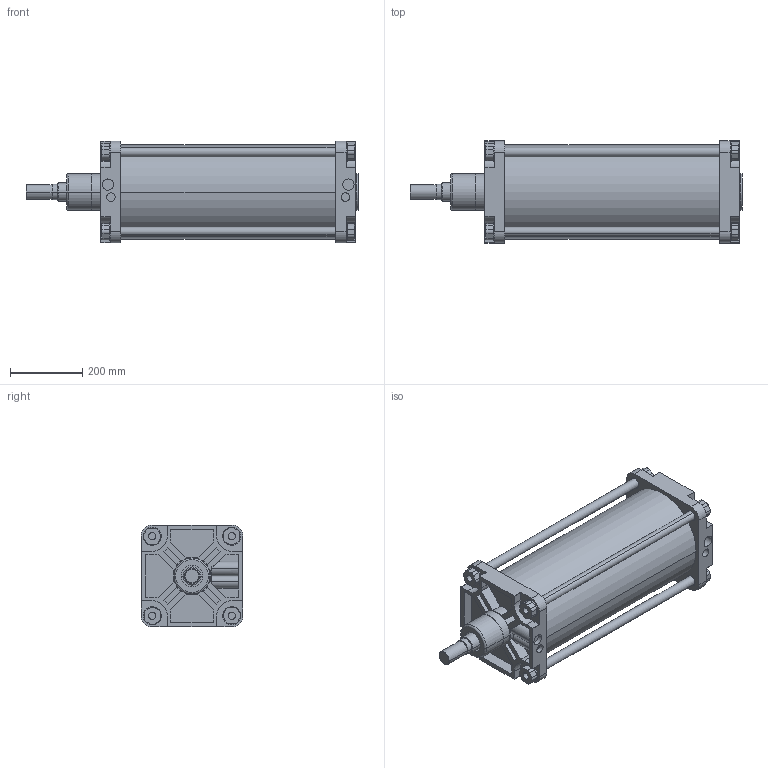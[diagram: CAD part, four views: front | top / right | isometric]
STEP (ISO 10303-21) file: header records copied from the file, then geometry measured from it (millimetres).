
FILE_DESCRIPTION(('CATIA V5 STEP Exchange'),'2;1');
FILE_NAME('D:\stp file for catalog\PNC\250\PNC 250-50-500.stp','2015-10-25T14:27:43+00:00',('none'),('none'),'Version 5-6 Release 2012','CATIA V5 STEP AP203','none');
FILE_SCHEMA(('CONFIG_CONTROL_DESIGN'));
Length unit declared in the file: millimetre
Products named in the file (1): PNC 250-50-500-00
Assembly tree (2 placements, depth 2):
  PNC 250-50-500-00
    #58
    #15305
Bounding box: 918 x 282 x 282 mm (x, y, z)
Volume: 13348142.8 mm3; surface area: 2047916.3 mm2
Topology: 2 solids, 2 shells, 556 faces, 1428 edges, 944 vertices
Faces by surface type: plane 316, cylinder 196, cone 42, torus 2
Entity records: 15751 total; most frequent: CARTESIAN_POINT 3340, ORIENTED_EDGE 2856, DIRECTION 1929, EDGE_CURVE 1428, VERTEX_POINT 944, VECTOR 904, LINE 904, AXIS2_PLACEMENT_3D 718
